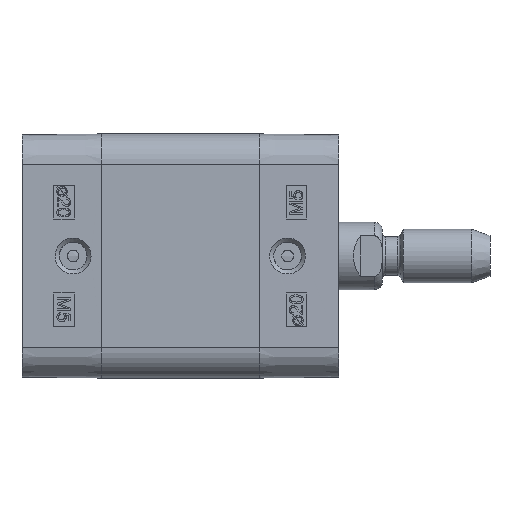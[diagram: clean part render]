
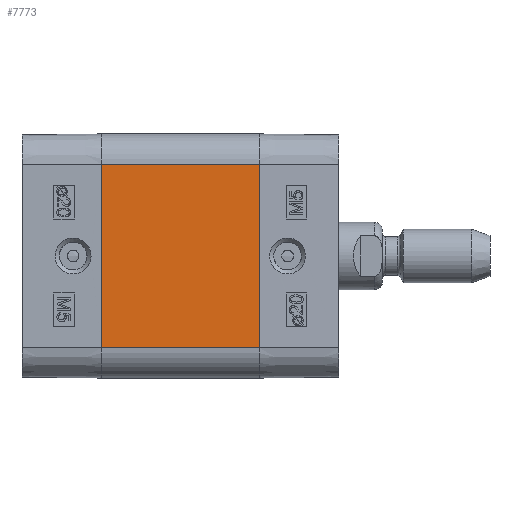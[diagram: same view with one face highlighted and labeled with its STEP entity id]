
A CAD part, left-side view. The second image highlights one B-rep face of the part: STEP entity #7773.
In plain terms, the highlighted planar face has unit normal (-1, 0, 0).
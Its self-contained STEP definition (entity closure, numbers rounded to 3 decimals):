
#6294=CARTESIAN_POINT('',(-18.15,-23.5,13.65));
#6295=VERTEX_POINT('',#6294);
#6302=CARTESIAN_POINT('',(-18.15,-23.5,-13.65));
#6303=VERTEX_POINT('',#6302);
#6304=CARTESIAN_POINT('',(-18.15,-23.5,-13.65));
#6305=DIRECTION('',(0.0,0.0,1.0));
#6306=VECTOR('',#6305,27.3);
#6307=LINE('',#6304,#6306);
#6308=EDGE_CURVE('',#6303,#6295,#6307,.T.);
#7731=CARTESIAN_POINT('',(-18.15,0.0,-13.65));
#7732=VERTEX_POINT('',#7731);
#7733=CARTESIAN_POINT('',(-18.15,0.0,-13.65));
#7734=DIRECTION('',(0.0,-1.0,0.0));
#7735=VECTOR('',#7734,23.5);
#7736=LINE('',#7733,#7735);
#7737=EDGE_CURVE('',#7732,#6303,#7736,.T.);
#7750=CARTESIAN_POINT('',(-18.15,0.0,-13.65));
#7751=DIRECTION('',(-1.0,0.0,0.0));
#7752=DIRECTION('',(0.0,0.0,1.0));
#7753=AXIS2_PLACEMENT_3D('',#7750,#7751,#7752);
#7754=PLANE('',#7753);
#7755=ORIENTED_EDGE('',*,*,#6308,.T.);
#7756=CARTESIAN_POINT('',(-18.15,0.0,13.65));
#7757=VERTEX_POINT('',#7756);
#7758=CARTESIAN_POINT('',(-18.15,0.0,13.65));
#7759=DIRECTION('',(0.0,-1.0,0.0));
#7760=VECTOR('',#7759,23.5);
#7761=LINE('',#7758,#7760);
#7762=EDGE_CURVE('',#7757,#6295,#7761,.T.);
#7763=ORIENTED_EDGE('',*,*,#7762,.F.);
#7764=CARTESIAN_POINT('',(-18.15,0.0,-13.65));
#7765=DIRECTION('',(0.0,0.0,1.0));
#7766=VECTOR('',#7765,27.3);
#7767=LINE('',#7764,#7766);
#7768=EDGE_CURVE('',#7732,#7757,#7767,.T.);
#7769=ORIENTED_EDGE('',*,*,#7768,.F.);
#7770=ORIENTED_EDGE('',*,*,#7737,.T.);
#7771=EDGE_LOOP('',(#7755,#7763,#7769,#7770));
#7772=FACE_OUTER_BOUND('',#7771,.T.);
#7773=ADVANCED_FACE('',(#7772),#7754,.T.);
